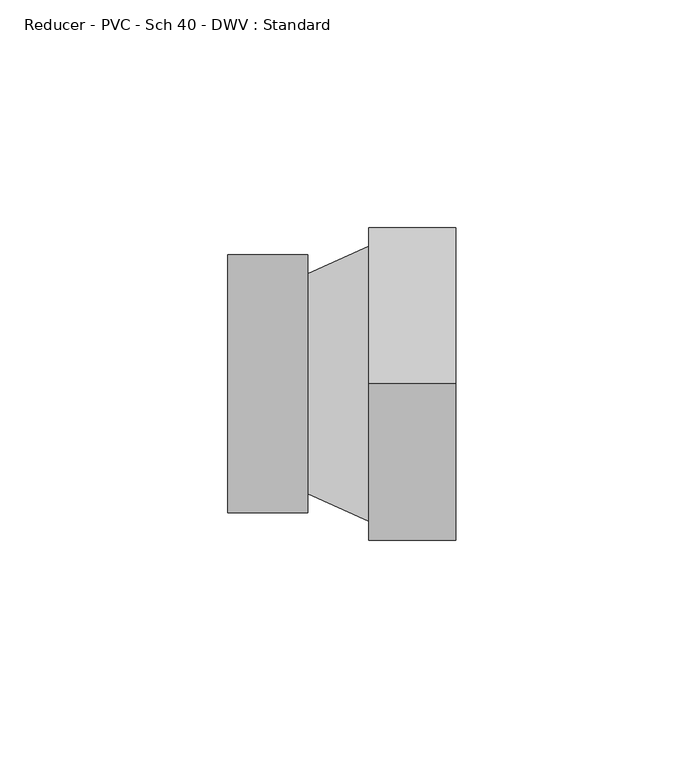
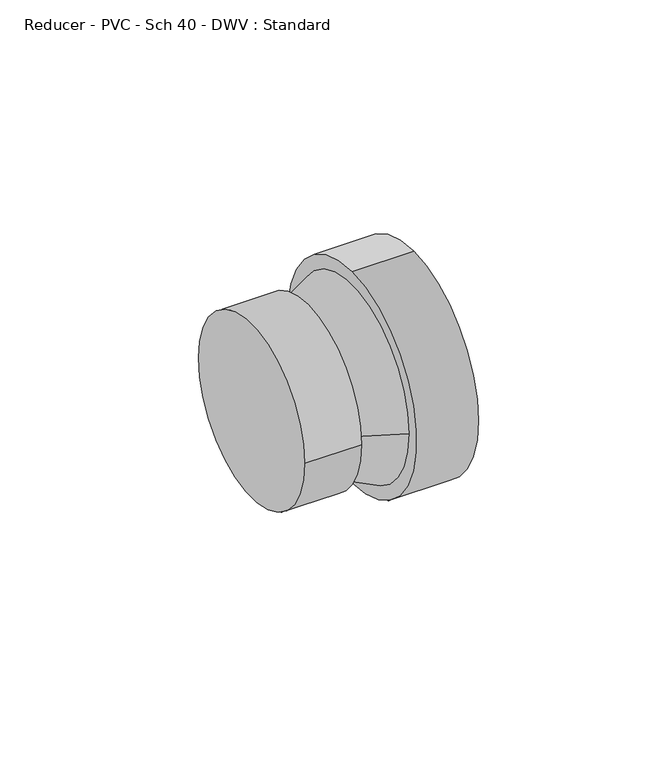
"""IFC4 building model written with IfcOpenShell, lengths in millimetres: pipe fitting geometry, Reducer - PVC - Sch 40 - DWV : Standard."""

from ifc_helpers import new_model, si_unit, frame, origin, place, context, project, spatial, polyline, circle_curve, source, transform, mapped, element, save
from ifc_brep_helpers import plane_surface, cylinder_surface, revolved_surface, advanced_brep


def reducer_pvc_sch_40_dwv_standard_b2b0afcc(model_context):
    return source(origin(), model_context, "Body", "AdvancedBrep", [
        advanced_brep(
        [(0.0, 28.2829, 0.0), (0.0, -28.2829, 0.0), (17.4498, 28.2829, 0.0), (17.4498, -28.2829, 0.0), (17.4498, -24.13, 0.0), (17.4498, 24.13, 0.0), (30.9372, 30.1625, 0.0), (30.9372, -30.1625, 0.0), (30.9372, 0.0, 34.3154), (30.9372, 0.0, -34.3154), (49.9872, 0.0, 34.3154), (49.9872, 0.0, -34.3154)],
        [
            (0, 1, circle_curve(frame((0.0, 0.0, 0.0), z_axis=(-1.0, 0.0, 0.0), x_axis=(0.0, -1.0, 0.0)), 28.2829)),
            (1, 0, circle_curve(frame((0.0, 0.0, 0.0), z_axis=(-1.0, 0.0, 0.0), x_axis=(0.0, -1.0, 0.0)), 28.2829)),
            (2, 3, circle_curve(frame((17.4498, 0.0, 0.0), z_axis=(1.0, 0.0, 0.0), x_axis=(0.0, -1.0, 0.0)), 28.2829)),
            (3, 2, circle_curve(frame((17.4498, 0.0, 0.0), z_axis=(1.0, 0.0, 0.0), x_axis=(0.0, -1.0, 0.0)), 28.2829)),
            (4, 5, circle_curve(frame((17.4498, 0.0, 0.0), z_axis=(-1.0, 0.0, 0.0), x_axis=(0.0, -1.0, 0.0)), 24.13)),
            (5, 4, circle_curve(frame((17.4498, 0.0, 0.0), z_axis=(-1.0, 0.0, 0.0), x_axis=(0.0, 1.0, 0.0)), 24.13)),
            (1, 3),
            (2, 0),
            (5, 6),
            (6, 7, circle_curve(frame((30.9372, 0.0, 0.0), z_axis=(-1.0, 0.0, 0.0), x_axis=(0.0, 1.0, 0.0)), 30.1625)),
            (7, 4),
            (7, 6, circle_curve(frame((30.9372, 0.0, 0.0), z_axis=(-1.0, 0.0, 0.0), x_axis=(0.0, -1.0, 0.0)), 30.1625)),
            (8, 9, circle_curve(frame((30.9372, 0.0, 0.0), z_axis=(-1.0, 0.0, 0.0), x_axis=(0.0, 0.0, -1.0)), 34.3154)),
            (9, 8, circle_curve(frame((30.9372, 0.0, 0.0), z_axis=(-1.0, 0.0, 0.0), x_axis=(0.0, 0.0, -1.0)), 34.3154)),
            (10, 11, circle_curve(frame((49.9872, 0.0, 0.0), z_axis=(1.0, 0.0, 0.0), x_axis=(0.0, 0.0, -1.0)), 34.3154)),
            (11, 10, circle_curve(frame((49.9872, 0.0, 0.0), z_axis=(1.0, 0.0, 0.0), x_axis=(0.0, 0.0, -1.0)), 34.3154)),
            (9, 11),
            (10, 8),
        ],
        [
            plane_surface(frame((0.0, 0.0, 0.0), z_axis=(-1.0, 0.0, 0.0), x_axis=(0.0, 0.0, 1.0))),
            plane_surface(frame((17.4498, 0.0, 0.0), z_axis=(1.0, 0.0, 0.0), x_axis=(0.0, 0.0, 1.0))),
            cylinder_surface(frame((0.0, 0.0, 0.0), z_axis=(-1.0, 0.0, 0.0), x_axis=(0.0, -1.0, 0.0)), 28.2829),
            revolved_surface(polyline([(17.449800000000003, 24.130000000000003, 0.0), (30.937199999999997, 30.1625, 0.0)]), (-36.4998, 0.0, 0.0), (1.0, 0.0, 0.0)),
            revolved_surface(polyline([(17.449800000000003, -24.130000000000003, 0.0), (30.937199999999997, -30.1625, 0.0)]), (-36.4998, 0.0, 0.0), (1.0, 0.0, 0.0)),
            plane_surface(frame((30.9372, 0.0, 0.0), z_axis=(-1.0, 0.0, 0.0), x_axis=(0.0, -1.0, 0.0))),
            plane_surface(frame((49.9872, 0.0, 0.0), z_axis=(1.0, 0.0, 0.0), x_axis=(0.0, -1.0, 0.0))),
            cylinder_surface(frame((30.9372, 0.0, 0.0), z_axis=(-1.0, 0.0, 0.0), x_axis=(0.0, 0.0, -1.0)), 34.3154),
        ],
        [
            (0, [[1, 2]]),
            (1, [[3, 4], [5, 6]]),
            (2, [[7, -3, 8, -2]]),
            (2, [[-8, -4, -7, -1]]),
            (3, [[-6, 9, 10, 11]]),
            (4, [[12, -9, -5, -11]]),
            (5, [[13, 14], [-12, -10]]),
            (6, [[15, 16]]),
            (7, [[17, -15, 18, -14]]),
            (7, [[-18, -16, -17, -13]]),
        ],
    ),
    ])


if __name__ == "__main__":
    model = new_model("IFC4")
    model_context = context("Model", 3, world=origin())
    ifc_project = project(units=[si_unit("LENGTHUNIT", "METRE", prefix="MILLI")], contexts=[model_context])
    site = spatial("IfcSite", under=ifc_project)
    building = spatial("IfcBuilding", under=site)
    placement = place(None, origin())
    reducer_pvc_sch_40_dwv_standard_shape = reducer_pvc_sch_40_dwv_standard_b2b0afcc(model_context)
    element("IfcPipeFitting", 1, ObjectType="Reducer - PVC - Sch 40 - DWV : Standard", at=placement, inside=building, context=model_context, shape_type="MappedRepresentation", body=[
        mapped(reducer_pvc_sch_40_dwv_standard_shape, transform((0.0, 0.0, 0.0), x_axis=(1.0, 0.0, 0.0), y_axis=(0.0, 1.0, 0.0), z_axis=(0.0, 0.0, 1.0))),
    ])
    save(model, "model.ifc")
